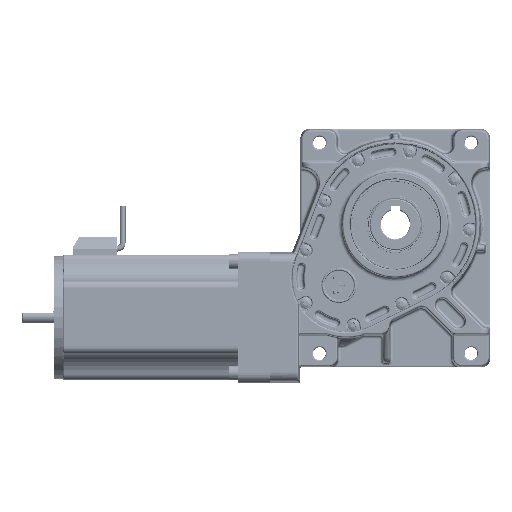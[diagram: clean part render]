
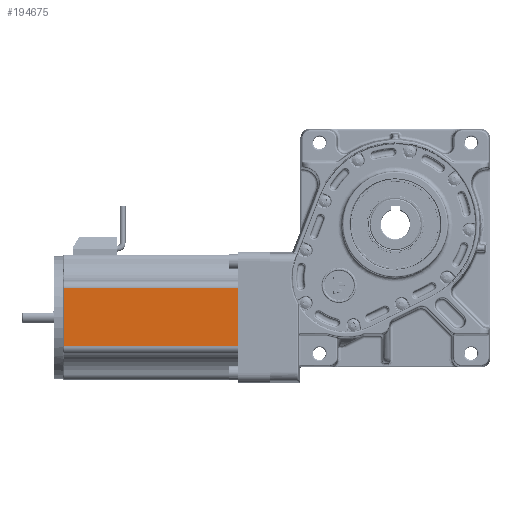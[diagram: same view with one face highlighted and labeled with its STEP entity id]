
A CAD part, top view. The second image highlights one B-rep face of the part: STEP entity #194675.
In plain terms, the highlighted planar face has unit normal (0, 0, 1).
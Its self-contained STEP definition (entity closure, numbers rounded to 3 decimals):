
#2661 = CARTESIAN_POINT ( 'NONE',  ( -174.219, -48.129, 80.402 ) ) ;
#12054 = EDGE_LOOP ( 'NONE', ( #17097, #95128, #45769, #16501 ) ) ;
#16501 = ORIENTED_EDGE ( 'NONE', *, *, #194930, .T. ) ;
#17097 = ORIENTED_EDGE ( 'NONE', *, *, #32980, .T. ) ;
#26722 = VERTEX_POINT ( 'NONE', #147426 ) ;
#28989 = VECTOR ( 'NONE', #184035, 1000. ) ;
#32980 = EDGE_CURVE ( 'NONE', #117269, #228065, #99807, .T. ) ;
#40675 = VERTEX_POINT ( 'NONE', #246243 ) ;
#45769 = ORIENTED_EDGE ( 'NONE', *, *, #159211, .T. ) ;
#48047 = VECTOR ( 'NONE', #238518, 1000. ) ;
#58975 = DIRECTION ( 'NONE',  ( 0., -1., 0. ) ) ;
#80023 = CARTESIAN_POINT ( 'NONE',  ( -174.219, -71.091, 80.402 ) ) ;
#95128 = ORIENTED_EDGE ( 'NONE', *, *, #139465, .F. ) ;
#99807 = LINE ( 'NONE', #2661, #28989 ) ;
#104434 = LINE ( 'NONE', #165289, #152020 ) ;
#117269 = VERTEX_POINT ( 'NONE', #170458 ) ;
#120905 = AXIS2_PLACEMENT_3D ( 'NONE', #80023, #146278, #230293 ) ;
#137899 = CARTESIAN_POINT ( 'NONE',  ( -186.719, -71.091, 80.402 ) ) ;
#139465 = EDGE_CURVE ( 'NONE', #40675, #228065, #195850, .T. ) ;
#146278 = DIRECTION ( 'NONE',  ( 0., 0., -1. ) ) ;
#147426 = CARTESIAN_POINT ( 'NONE',  ( -305.719, -8.053, 80.402 ) ) ;
#152020 = VECTOR ( 'NONE', #58975, 1000. ) ;
#159211 = EDGE_CURVE ( 'NONE', #40675, #26722, #263984, .T. ) ;
#165289 = CARTESIAN_POINT ( 'NONE',  ( -305.719, -48.129, 80.402 ) ) ;
#170458 = CARTESIAN_POINT ( 'NONE',  ( -305.719, -48.129, 80.402 ) ) ;
#184035 = DIRECTION ( 'NONE',  ( 1., 0., 0. ) ) ;
#192563 = CARTESIAN_POINT ( 'NONE',  ( -186.719, -48.129, 80.402 ) ) ;
#194675 = ADVANCED_FACE ( 'NONE', ( #262152 ), #246902, .F. ) ;
#194930 = EDGE_CURVE ( 'NONE', #26722, #117269, #104434, .T. ) ;
#195850 = LINE ( 'NONE', #137899, #48047 ) ;
#228065 = VERTEX_POINT ( 'NONE', #192563 ) ;
#230293 = DIRECTION ( 'NONE',  ( 0., 1., 0. ) ) ;
#233916 = VECTOR ( 'NONE', #243260, 1000. ) ;
#238518 = DIRECTION ( 'NONE',  ( 0., -1., 0. ) ) ;
#241871 = CARTESIAN_POINT ( 'NONE',  ( -174.219, -8.053, 80.402 ) ) ;
#243260 = DIRECTION ( 'NONE',  ( -1., 0., 0. ) ) ;
#246243 = CARTESIAN_POINT ( 'NONE',  ( -186.719, -8.053, 80.402 ) ) ;
#246902 = PLANE ( 'NONE',  #120905 ) ;
#262152 = FACE_OUTER_BOUND ( 'NONE', #12054, .T. ) ;
#263984 = LINE ( 'NONE', #241871, #233916 ) ;
